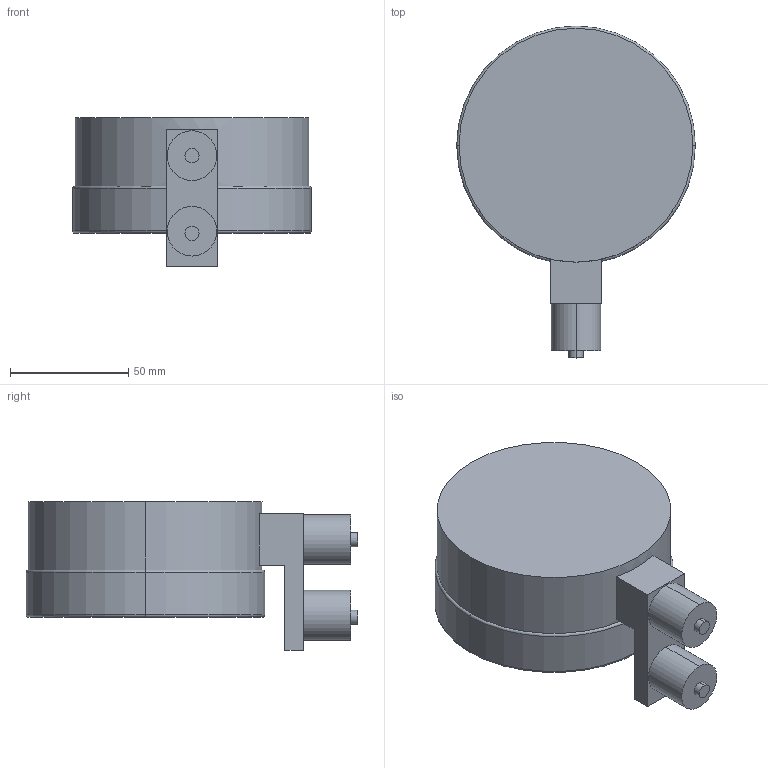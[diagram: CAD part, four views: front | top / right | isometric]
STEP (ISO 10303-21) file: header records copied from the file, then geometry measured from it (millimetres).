
FILE_DESCRIPTION (( 'STEP AP214' ), '1' );
FILE_NAME ('Manometr_puszkowy_roznicowy_x_0_3D_AFRISO.STEP', '2022-12-15T13:52:38', ( '' ), ( '' ), 'SwSTEP 2.0', 'SolidWorks 2022', '' );
FILE_SCHEMA (( 'AUTOMOTIVE_DESIGN' ));
Length unit declared in the file: millimetre
Products named in the file (1): Manometr_puszkowy_roznicowy_x_0_3D_AFRISO
Bounding box: 101 x 140.5 x 63 mm (x, y, z)
Volume: 412363 mm3; surface area: 37636.4 mm2
Topology: 1 solids, 1 shells, 29 faces, 60 edges, 38 vertices
Faces by surface type: plane 13, cylinder 12, torus 4
Entity records: 812 total; most frequent: DIRECTION 152, CARTESIAN_POINT 128, ORIENTED_EDGE 120, AXIS2_PLACEMENT_3D 62, EDGE_CURVE 60, VERTEX_POINT 38, EDGE_LOOP 34, CIRCLE 32
